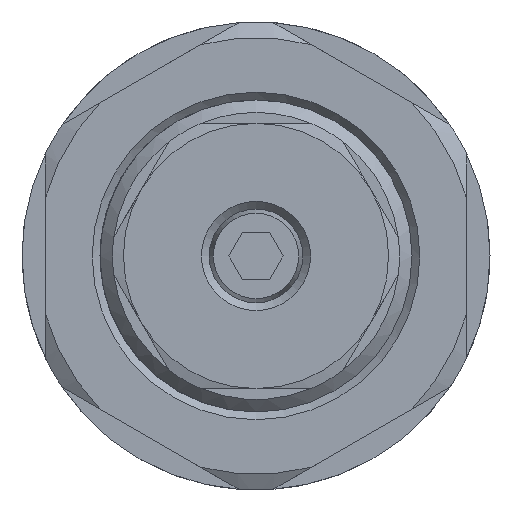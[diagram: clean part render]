
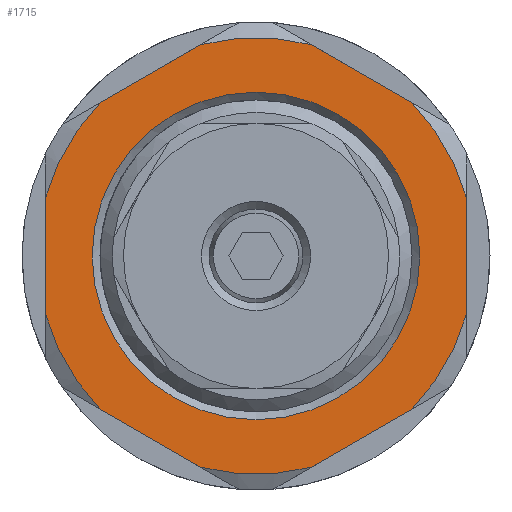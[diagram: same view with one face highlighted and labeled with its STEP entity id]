
A CAD part, left-side view. The second image highlights one B-rep face of the part: STEP entity #1715.
In plain terms, the highlighted planar face has unit normal (-1, 0, 0).
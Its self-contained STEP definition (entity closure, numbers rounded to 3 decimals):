
#216=LINE('',#4309,#298);
#217=LINE('',#4310,#299);
#218=LINE('',#4311,#300);
#219=LINE('',#4312,#301);
#220=LINE('',#4313,#302);
#221=LINE('',#4314,#303);
#298=VECTOR('',#2659,1.);
#299=VECTOR('',#2660,1.);
#300=VECTOR('',#2661,1.);
#301=VECTOR('',#2662,1.);
#302=VECTOR('',#2663,1.);
#303=VECTOR('',#2664,1.);
#386=PLANE('',#2260);
#558=EDGE_LOOP('',(#884));
#559=EDGE_LOOP('',(#885,#886,#887,#888,#889,#890,#891,#892,#893,#894,#895,
#896));
#884=ORIENTED_EDGE('',*,*,#1330,.T.);
#885=ORIENTED_EDGE('',*,*,#1285,.F.);
#886=ORIENTED_EDGE('',*,*,#1331,.T.);
#887=ORIENTED_EDGE('',*,*,#1283,.F.);
#888=ORIENTED_EDGE('',*,*,#1332,.T.);
#889=ORIENTED_EDGE('',*,*,#1301,.F.);
#890=ORIENTED_EDGE('',*,*,#1333,.T.);
#891=ORIENTED_EDGE('',*,*,#1297,.F.);
#892=ORIENTED_EDGE('',*,*,#1334,.T.);
#893=ORIENTED_EDGE('',*,*,#1293,.F.);
#894=ORIENTED_EDGE('',*,*,#1335,.T.);
#895=ORIENTED_EDGE('',*,*,#1289,.F.);
#896=ORIENTED_EDGE('',*,*,#1336,.T.);
#1283=EDGE_CURVE('',#2033,#2031,#1487,.T.);
#1285=EDGE_CURVE('',#2034,#2036,#1488,.T.);
#1289=EDGE_CURVE('',#2038,#2040,#1490,.T.);
#1293=EDGE_CURVE('',#2042,#2044,#1492,.T.);
#1297=EDGE_CURVE('',#2046,#2048,#1494,.T.);
#1301=EDGE_CURVE('',#2050,#2052,#1496,.T.);
#1330=EDGE_CURVE('',#2074,#2074,#1509,.T.);
#1331=EDGE_CURVE('',#2034,#2031,#216,.T.);
#1332=EDGE_CURVE('',#2033,#2052,#217,.T.);
#1333=EDGE_CURVE('',#2050,#2048,#218,.T.);
#1334=EDGE_CURVE('',#2046,#2044,#219,.T.);
#1335=EDGE_CURVE('',#2042,#2040,#220,.T.);
#1336=EDGE_CURVE('',#2038,#2036,#221,.T.);
#1487=CIRCLE('',#2226,14.);
#1488=CIRCLE('',#2228,14.);
#1490=CIRCLE('',#2231,14.);
#1492=CIRCLE('',#2234,14.);
#1494=CIRCLE('',#2237,14.);
#1496=CIRCLE('',#2240,14.);
#1509=CIRCLE('',#2259,10.5);
#1715=ADVANCED_FACE('',(#1881,#1882),#386,.F.);
#1881=FACE_BOUND('',#558,.T.);
#1882=FACE_BOUND('',#559,.T.);
#2031=VERTEX_POINT('',#3913);
#2033=VERTEX_POINT('',#3920);
#2034=VERTEX_POINT('',#3927);
#2036=VERTEX_POINT('',#3930);
#2038=VERTEX_POINT('',#3942);
#2040=VERTEX_POINT('',#3945);
#2042=VERTEX_POINT('',#3957);
#2044=VERTEX_POINT('',#3960);
#2046=VERTEX_POINT('',#3972);
#2048=VERTEX_POINT('',#3975);
#2050=VERTEX_POINT('',#3987);
#2052=VERTEX_POINT('',#3990);
#2074=VERTEX_POINT('',#4308);
#2226=AXIS2_PLACEMENT_3D('',#3921,#2578,#2579);
#2228=AXIS2_PLACEMENT_3D('',#3929,#2582,#2583);
#2231=AXIS2_PLACEMENT_3D('',#3944,#2588,#2589);
#2234=AXIS2_PLACEMENT_3D('',#3959,#2594,#2595);
#2237=AXIS2_PLACEMENT_3D('',#3974,#2600,#2601);
#2240=AXIS2_PLACEMENT_3D('',#3989,#2606,#2607);
#2259=AXIS2_PLACEMENT_3D('',#4307,#2657,#2658);
#2260=AXIS2_PLACEMENT_3D('',#4315,#2665,#2666);
#2578=DIRECTION('',(1.,0.,0.));
#2579=DIRECTION('',(0.,0.,-1.));
#2582=DIRECTION('',(1.,0.,0.));
#2583=DIRECTION('',(0.,0.,-1.));
#2588=DIRECTION('',(1.,0.,0.));
#2589=DIRECTION('',(0.,0.,-1.));
#2594=DIRECTION('',(1.,0.,0.));
#2595=DIRECTION('',(0.,0.,-1.));
#2600=DIRECTION('',(1.,0.,0.));
#2601=DIRECTION('',(0.,0.,-1.));
#2606=DIRECTION('',(1.,0.,0.));
#2607=DIRECTION('',(0.,0.,-1.));
#2657=DIRECTION('',(1.,0.,0.));
#2658=DIRECTION('',(0.,0.,-1.));
#2659=DIRECTION('',(0.,0.,1.));
#2660=DIRECTION('',(0.,0.866,0.5));
#2661=DIRECTION('',(0.,0.866,-0.5));
#2662=DIRECTION('',(0.,0.,-1.));
#2663=DIRECTION('',(0.,-0.866,-0.5));
#2664=DIRECTION('',(0.,-0.866,0.5));
#2665=DIRECTION('',(1.,0.,0.));
#2666=DIRECTION('',(0.,0.,1.));
#3913=CARTESIAN_POINT('',(16.502,-13.5,3.708));
#3920=CARTESIAN_POINT('',(16.502,-9.961,9.837));
#3921=CARTESIAN_POINT('',(16.502,0.,0.));
#3927=CARTESIAN_POINT('',(16.502,-13.5,-3.708));
#3929=CARTESIAN_POINT('',(16.502,0.,0.));
#3930=CARTESIAN_POINT('',(16.502,-9.961,-9.837));
#3942=CARTESIAN_POINT('',(16.502,-3.539,-13.545));
#3944=CARTESIAN_POINT('',(16.502,0.,0.));
#3945=CARTESIAN_POINT('',(16.502,3.539,-13.545));
#3957=CARTESIAN_POINT('',(16.502,9.961,-9.837));
#3959=CARTESIAN_POINT('',(16.502,0.,0.));
#3960=CARTESIAN_POINT('',(16.502,13.5,-3.708));
#3972=CARTESIAN_POINT('',(16.502,13.5,3.708));
#3974=CARTESIAN_POINT('',(16.502,0.,0.));
#3975=CARTESIAN_POINT('',(16.502,9.961,9.837));
#3987=CARTESIAN_POINT('',(16.502,3.539,13.545));
#3989=CARTESIAN_POINT('',(16.502,0.,0.));
#3990=CARTESIAN_POINT('',(16.502,-3.539,13.545));
#4307=CARTESIAN_POINT('',(16.502,0.,0.));
#4308=CARTESIAN_POINT('',(16.502,0.,-10.5));
#4309=CARTESIAN_POINT('',(16.502,-13.5,-7.794));
#4310=CARTESIAN_POINT('',(16.502,-13.5,7.794));
#4311=CARTESIAN_POINT('',(16.502,0.,15.588));
#4312=CARTESIAN_POINT('',(16.502,13.5,7.794));
#4313=CARTESIAN_POINT('',(16.502,13.5,-7.794));
#4314=CARTESIAN_POINT('',(16.502,0.,-15.588));
#4315=CARTESIAN_POINT('',(16.502,9.5,0.));
